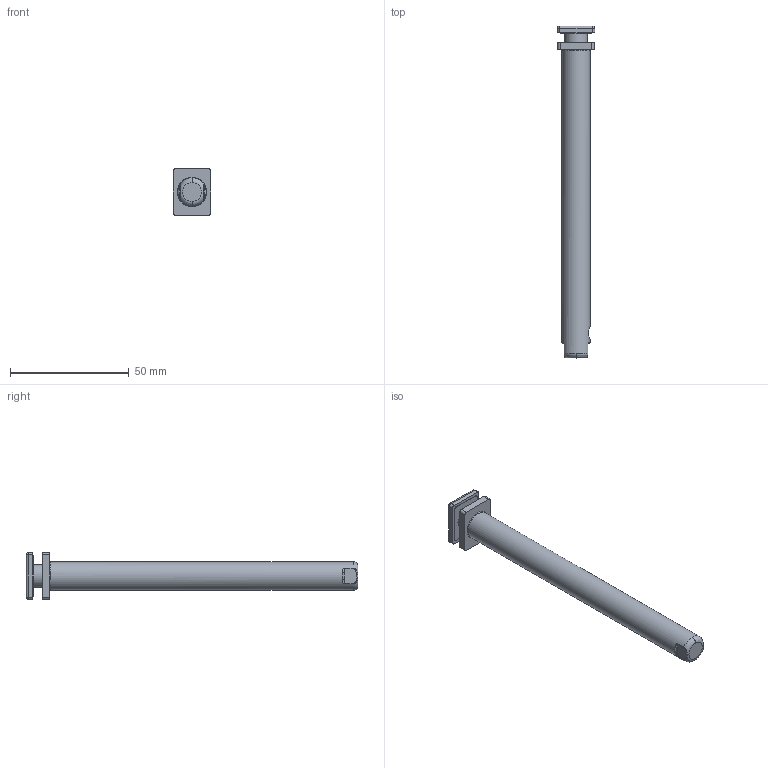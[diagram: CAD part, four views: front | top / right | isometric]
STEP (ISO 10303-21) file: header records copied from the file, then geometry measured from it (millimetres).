
FILE_DESCRIPTION(('STEP AP203'),'2;1');
FILE_NAME('ART-30612Z01202_0.stp','2020-10-12T13:57:37',(''),(''),'2009.3.110','THINKDESIGN','');
FILE_SCHEMA(('CONFIG_CONTROL_DESIGN'));
Length unit declared in the file: millimetre
Bounding box: 15.7 x 139.5 x 19.7 mm (x, y, z)
Volume: 16262.9 mm3; surface area: 6976.2 mm2
Topology: 1 solids, 1 shells, 98 faces, 236 edges, 142 vertices
Faces by surface type: cylinder 38, plane 36, bspline 24
Full cylindrical faces by diameter (mm): 9.5 x1, 11.9 x1
Entity records: 4935 total; most frequent: CARTESIAN_POINT 2638, ORIENTED_EDGE 464, DIRECTION 444, EDGE_CURVE 232, AXIS2_PLACEMENT_3D 166, VERTEX_POINT 142, VECTOR 112, LINE 112
